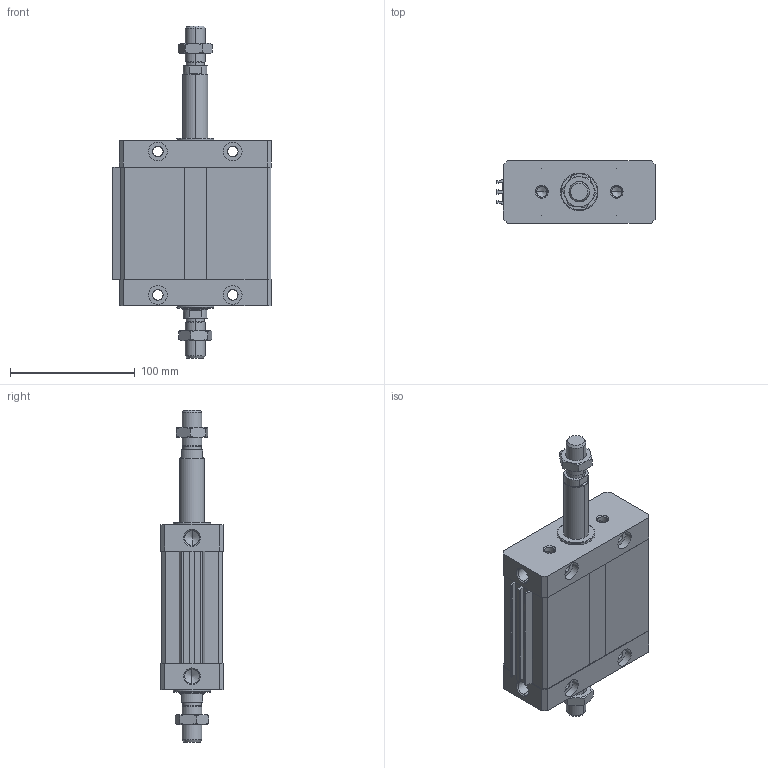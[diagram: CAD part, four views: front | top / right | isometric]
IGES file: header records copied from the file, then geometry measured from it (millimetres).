
Global section: file name: No Iges File Name specified; native system: Autodesk Inventor 2011; preprocessor: AutoDesk Inventor Iges Exporter R2011; author: airolcr1; date: 20101213.153456; units: millimetre
Bounding box: 126.75 x 50 x 266 mm (x, y, z)
Volume: 658676.1 mm3; surface area: 145705.7 mm2
Topology: 6 solids, 6 shells, 280 faces, 664 edges, 396 vertices
Faces by surface type: bspline 114, plane 98, cone 36, cylinder 18, revolution 14
